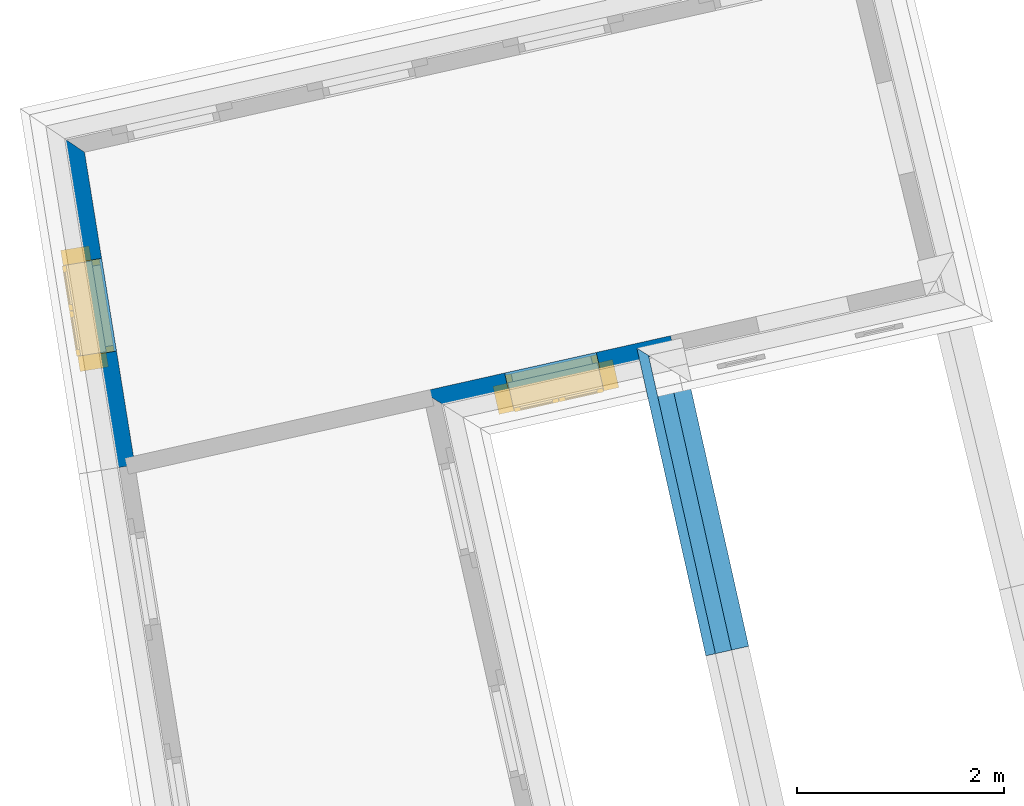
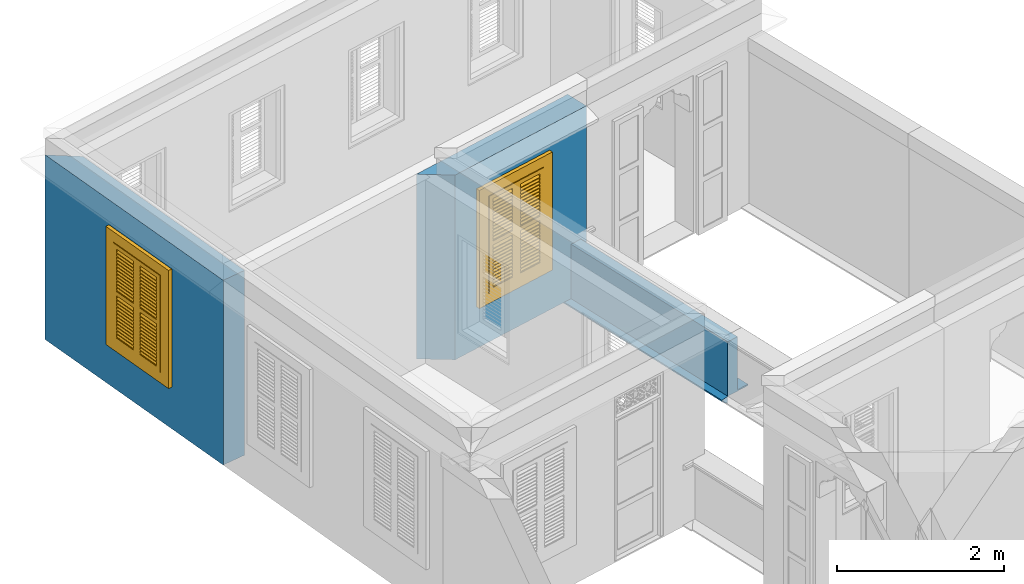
# One storey, part 9 of 15: 4 walls, 2 windows, 2 openings.
"""IFC4 building model written with IfcOpenShell, lengths in metres."""

from ifc_helpers import new_model, si_unit, frame, origin, origin_with_axes, place, context, subcontext, project, spatial, polyline, outline, extrude, clip, halfspace, faceted_brep, source, transform, mapped, material, layer, layer_set, layer_usage, material_profile, profile_set, profile_usage, type_object, type_shapes, element, fill, save


model = new_model("IFC4")

# Units and contexts
model_context = context("Model", 3, world=origin_with_axes())
body_context = subcontext(model_context, "Body", "Model", "MODEL_VIEW")
ifc_project = project(units=[si_unit("PLANEANGLEUNIT", "RADIAN"), si_unit("MASSUNIT", "GRAM", prefix="KILO"), si_unit("FORCEUNIT", "NEWTON", prefix="KILO"), si_unit("LENGTHUNIT", "METRE"), si_unit("AREAUNIT", "SQUARE_METRE"), si_unit("VOLUMEUNIT", "CUBIC_METRE")], contexts=[model_context, model_context])

# Site, building, storey
site_placement = place(None, origin_with_axes())
site = spatial("IfcSite", under=ifc_project, at=site_placement, Name="Site plot-10", CompositionType="ELEMENT")
building_placement = place(None, origin_with_axes())
building = spatial("IfcBuilding", under=site, at=building_placement, Name="Building plot-10", CompositionType="ELEMENT")
storey_placement = place(None, frame((0.0, 0.0, 2.7), z_axis=(0.0, 0.0, 1.0), x_axis=(1.0, 0.0, 0.0)))
storey = spatial("IfcBuildingStorey", under=building, at=storey_placement, Name="plot-10 1", CompositionType="ELEMENT", Elevation=2.7)

# Wall, opening, window
ifc_material = material(Name="Masonry")
ifc_layer = layer(ifc_material, 0.33, ventilated=False)
ifc_layer_set = layer_set([ifc_layer], Name="exterior_0.08_0.25")
ifc_layer_usage = layer_usage(ifc_layer_set, "AXIS2", "POSITIVE", -0.25)
wall_type_1 = type_object("IfcWallType", Name="exterior_0.08_0.25", PredefinedType="SOLIDWALL", material=ifc_layer_set)
wall_1_placement = place(storey_placement, frame((-25.0032951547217, 19.6175288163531, 0.0), z_axis=(0.0, 0.0, 1.0), x_axis=(0.158841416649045, -0.987304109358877, 0.0)))
wall_1 = element("IfcWall", 1, at=wall_1_placement, inside=storey, type_object=wall_type_1, material=ifc_layer_usage, Name="exterior", context=body_context, shape_type="SweptSolid", body=[
    extrude(outline(polyline([(0.0752482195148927, 0.0800000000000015), (-0.235150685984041, -0.250000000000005), (3.14293236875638, -0.249999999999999), (3.14293236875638, 0.0799999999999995), (0.0752482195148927, 0.0800000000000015)])), origin_with_axes(), (0.0, 0.0, 1.0), 2.7),
])
opening_1_placement = place(wall_1_placement, frame((1.11646618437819, 0.0, 0.75)))
opening_1 = element("IfcOpeningElement", 2, at=opening_1_placement, cuts=wall_1, Name="My Opening", ObjectType="Opening", context=body_context, shape_type="SweptSolid", body=[
    extrude(outline(polyline([(0.0, -0.270000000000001), (0.910000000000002, -0.270000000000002), (0.909999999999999, 1.1), (-1.99840144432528e-15, 1.1), (0.0, -0.270000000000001)])), origin_with_axes(), (0.0, 0.0, 1.0), 1.445),
])
window_type = type_object("IfcWindowType", Name="shuttered_shorter", PartitioningType="DOUBLE_PANEL_HORIZONTAL", PredefinedType="NOTDEFINED")
shared_shape = source(origin(), body_context, "Body", "Brep", [
    faceted_brep([(0.393, 0.0, 0.622), (0.074, 0.0, 0.622), (0.074, 0.0, 0.632), (0.393, 0.0, 0.632), (0.074, -0.04, 0.592), (0.393, -0.04, 0.592), (0.393, -0.04, 0.582), (0.074, -0.04, 0.582), (0.517, 0.0, 0.682), (0.836, 0.0, 0.682), (0.836, 0.0, 0.672), (0.517, 0.0, 0.672), (0.517, -0.04, 0.642), (0.836, -0.04, 0.642), (0.836, -0.04, 0.632), (0.517, -0.04, 0.632), (0.517, 0.0, 0.632), (0.836, 0.0, 0.632), (0.836, 0.0, 0.622), (0.517, 0.0, 0.622), (0.517, -0.04, 0.592), (0.836, -0.04, 0.592), (0.836, -0.04, 0.582), (0.517, -0.04, 0.582), (0.517, 0.0, 0.232), (0.836, 0.0, 0.232), (0.836, 0.0, 0.222), (0.517, 0.0, 0.222), (0.517, -0.04, 0.192), (0.836, -0.04, 0.192), (0.836, -0.04, 0.182), (0.517, -0.04, 0.182), (0.517, 0.0, 0.532), (0.836, 0.0, 0.532), (0.836, 0.0, 0.522), (0.517, 0.0, 0.522), (0.517, -0.04, 0.492), (0.836, -0.04, 0.492), (0.836, -0.04, 0.482), (0.517, -0.04, 0.482), (0.517, 0.0, 0.482), (0.836, 0.0, 0.482), (0.836, 0.0, 0.472), (0.517, 0.0, 0.472), (0.517, -0.04, 0.442), (0.836, -0.04, 0.442), (0.836, -0.04, 0.432), (0.517, -0.04, 0.432), (0.517, 0.0, 0.582), (0.836, 0.0, 0.582), (0.836, 0.0, 0.572), (0.517, 0.0, 0.572), (0.517, -0.04, 0.542), (0.836, -0.04, 0.542), (0.836, -0.04, 0.532), (0.517, -0.04, 0.532), (0.517, 0.0, 0.182), (0.836, 0.0, 0.182), (0.836, 0.0, 0.172), (0.517, 0.0, 0.172), (0.517, -0.04, 0.142), (0.836, -0.04, 0.142), (0.836, -0.04, 0.132), (0.517, -0.04, 0.132), (0.517, 0.0, 0.382), (0.836, 0.0, 0.382), (0.836, 0.0, 0.372), (0.517, 0.0, 0.372), (0.517, -0.04, 0.342), (0.836, -0.04, 0.342), (0.836, -0.04, 0.332), (0.517, -0.04, 0.332), (0.517, 0.0, 0.432), (0.836, 0.0, 0.432), (0.836, 0.0, 0.422), (0.517, 0.0, 0.422), (0.517, -0.04, 0.392), (0.836, -0.04, 0.392), (0.836, -0.04, 0.382), (0.517, -0.04, 0.382), (0.517, 0.0, 0.132), (0.836, 0.0, 0.132), (0.836, 0.0, 0.122), (0.517, 0.0, 0.122), (0.517, -0.04, 0.092), (0.836, -0.04, 0.092), (0.836, -0.04, 0.082), (0.517, -0.04, 0.082), (0.517, 0.0, 0.282), (0.836, 0.0, 0.282), (0.836, 0.0, 0.272), (0.517, 0.0, 0.272), (0.517, -0.04, 0.242), (0.836, -0.04, 0.242), (0.836, -0.04, 0.232), (0.517, -0.04, 0.232), (0.517, 0.0, 0.332), (0.836, 0.0, 0.332), (0.836, 0.0, 0.322), (0.517, 0.0, 0.322), (0.517, -0.04, 0.292), (0.836, -0.04, 0.292), (0.836, -0.04, 0.282), (0.517, -0.04, 0.282), (0.517, 0.0, 1.362667), (0.836, 0.0, 1.362667), (0.836, 0.0, 1.352667), (0.517, 0.0, 1.352667), (0.517, -0.04, 1.322667), (0.836, -0.04, 1.322667), (0.836, -0.04, 1.312667), (0.517, -0.04, 1.312667), (0.517, 0.0, 1.312667), (0.836, 0.0, 1.312667), (0.836, 0.0, 1.302667), (0.517, 0.0, 1.302667), (0.517, -0.04, 1.272667), (0.836, -0.04, 1.272667), (0.836, -0.04, 1.262667), (0.517, -0.04, 1.262667), (0.517, 0.0, 0.912667), (0.836, 0.0, 0.912667), (0.836, 0.0, 0.902667), (0.517, 0.0, 0.902667), (0.517, -0.04, 0.872667), (0.836, -0.04, 0.872667), (0.836, -0.04, 0.862667), (0.517, -0.04, 0.862667), (0.517, 0.0, 1.212667), (0.836, 0.0, 1.212667), (0.836, 0.0, 1.202667), (0.517, 0.0, 1.202667), (0.517, -0.04, 1.172667), (0.836, -0.04, 1.172667), (0.836, -0.04, 1.162667), (0.517, -0.04, 1.162667), (0.517, 0.0, 1.162667), (0.836, 0.0, 1.162667), (0.836, 0.0, 1.152667), (0.517, 0.0, 1.152667), (0.517, -0.04, 1.122667), (0.836, -0.04, 1.122667), (0.836, -0.04, 1.112667), (0.517, -0.04, 1.112667), (0.517, 0.0, 1.262667), (0.836, 0.0, 1.262667), (0.836, 0.0, 1.252667), (0.517, 0.0, 1.252667), (0.517, -0.04, 1.222667), (0.836, -0.04, 1.222667), (0.836, -0.04, 1.212667), (0.517, -0.04, 1.212667), (0.517, 0.0, 0.862667), (0.836, 0.0, 0.862667), (0.836, 0.0, 0.852667), (0.517, 0.0, 0.852667), (0.517, -0.04, 0.822667), (0.836, -0.04, 0.822667), (0.836, -0.04, 0.812667), (0.517, -0.04, 0.812667), (0.517, 0.0, 1.062667), (0.836, 0.0, 1.062667), (0.836, 0.0, 1.052667), (0.517, 0.0, 1.052667), (0.517, -0.04, 1.022667), (0.836, -0.04, 1.022667), (0.836, -0.04, 1.012667), (0.517, -0.04, 1.012667), (0.517, 0.0, 1.112667), (0.836, 0.0, 1.112667), (0.836, 0.0, 1.102667), (0.517, 0.0, 1.102667), (0.517, -0.04, 1.072667), (0.836, -0.04, 1.072667), (0.836, -0.04, 1.062667), (0.517, -0.04, 1.062667), (0.517, 0.0, 0.812667), (0.836, 0.0, 0.812667), (0.836, 0.0, 0.802667), (0.517, 0.0, 0.802667), (0.517, -0.04, 0.772667), (0.836, -0.04, 0.772667), (0.836, -0.04, 0.762667), (0.517, -0.04, 0.762667), (0.517, 0.0, 0.962667), (0.836, 0.0, 0.962667), (0.836, 0.0, 0.952667), (0.517, 0.0, 0.952667), (0.517, -0.04, 0.922667), (0.836, -0.04, 0.922667), (0.836, -0.04, 0.912667), (0.517, -0.04, 0.912667), (0.517, 0.0, 1.012667), (0.836, 0.0, 1.012667), (0.836, 0.0, 1.002667), (0.517, 0.0, 1.002667), (0.517, -0.04, 0.972667), (0.836, -0.04, 0.972667), (0.836, -0.04, 0.962667), (0.517, -0.04, 0.962667), (0.074, 0.0, 0.682), (0.393, 0.0, 0.682), (0.393, 0.0, 0.672), (0.074, 0.0, 0.672), (0.074, -0.04, 0.642), (0.393, -0.04, 0.642), (0.393, -0.04, 0.632), (0.074, -0.04, 0.632), (0.074, 0.0, 0.232), (0.393, 0.0, 0.232), (0.393, 0.0, 0.222), (0.074, 0.0, 0.222), (0.074, -0.04, 0.192), (0.393, -0.04, 0.192), (0.393, -0.04, 0.182), (0.074, -0.04, 0.182), (0.074, 0.0, 0.532), (0.393, 0.0, 0.532), (0.393, 0.0, 0.522), (0.074, 0.0, 0.522), (0.074, -0.04, 0.492), (0.393, -0.04, 0.492), (0.393, -0.04, 0.482), (0.074, -0.04, 0.482), (0.074, 0.0, 0.482), (0.393, 0.0, 0.482), (0.393, 0.0, 0.472), (0.074, 0.0, 0.472), (0.074, -0.04, 0.442), (0.393, -0.04, 0.442), (0.393, -0.04, 0.432), (0.074, -0.04, 0.432), (0.074, 0.0, 0.582), (0.393, 0.0, 0.582), (0.393, 0.0, 0.572), (0.074, 0.0, 0.572), (0.074, -0.04, 0.542), (0.393, -0.04, 0.542), (0.393, -0.04, 0.532), (0.074, -0.04, 0.532), (0.074, 0.0, 0.182), (0.393, 0.0, 0.182), (0.393, 0.0, 0.172), (0.074, 0.0, 0.172), (0.074, -0.04, 0.142), (0.393, -0.04, 0.142), (0.393, -0.04, 0.132), (0.074, -0.04, 0.132), (0.074, 0.0, 0.382), (0.393, 0.0, 0.382), (0.393, 0.0, 0.372), (0.074, 0.0, 0.372), (0.074, -0.04, 0.342), (0.393, -0.04, 0.342), (0.393, -0.04, 0.332), (0.074, -0.04, 0.332), (0.074, 0.0, 0.432), (0.393, 0.0, 0.432), (0.393, 0.0, 0.422), (0.074, 0.0, 0.422), (0.074, -0.04, 0.392), (0.393, -0.04, 0.392), (0.393, -0.04, 0.382), (0.074, -0.04, 0.382), (0.074, 0.0, 0.132), (0.393, 0.0, 0.132), (0.393, 0.0, 0.122), (0.074, 0.0, 0.122), (0.074, -0.04, 0.092), (0.393, -0.04, 0.092), (0.393, -0.04, 0.082), (0.074, -0.04, 0.082), (0.074, 0.0, 0.282), (0.393, 0.0, 0.282), (0.393, 0.0, 0.272), (0.074, 0.0, 0.272), (0.074, -0.04, 0.242), (0.393, -0.04, 0.242), (0.393, -0.04, 0.232), (0.074, -0.04, 0.232), (0.074, 0.0, 0.332), (0.393, 0.0, 0.332), (0.393, 0.0, 0.322), (0.074, 0.0, 0.322), (0.074, -0.04, 0.292), (0.393, -0.04, 0.292), (0.393, -0.04, 0.282), (0.074, -0.04, 0.282), (0.074, 0.0, 1.362667), (0.393, 0.0, 1.362667), (0.393, 0.0, 1.352667), (0.074, 0.0, 1.352667), (0.074, -0.04, 1.322667), (0.393, -0.04, 1.322667), (0.393, -0.04, 1.312667), (0.074, -0.04, 1.312667), (0.074, 0.0, 1.312667), (0.393, 0.0, 1.312667), (0.393, 0.0, 1.302667), (0.074, 0.0, 1.302667), (0.074, -0.04, 1.272667), (0.393, -0.04, 1.272667), (0.393, -0.04, 1.262667), (0.074, -0.04, 1.262667), (0.074, 0.0, 0.912667), (0.393, 0.0, 0.912667), (0.393, 0.0, 0.902667), (0.074, 0.0, 0.902667), (0.074, -0.04, 0.872667), (0.393, -0.04, 0.872667), (0.393, -0.04, 0.862667), (0.074, -0.04, 0.862667), (0.074, 0.0, 1.212667), (0.393, 0.0, 1.212667), (0.393, 0.0, 1.202667), (0.074, 0.0, 1.202667), (0.074, -0.04, 1.172667), (0.393, -0.04, 1.172667), (0.393, -0.04, 1.162667), (0.074, -0.04, 1.162667), (0.074, 0.0, 1.162667), (0.393, 0.0, 1.162667), (0.393, 0.0, 1.152667), (0.074, 0.0, 1.152667), (0.074, -0.04, 1.122667), (0.393, -0.04, 1.122667), (0.393, -0.04, 1.112667), (0.074, -0.04, 1.112667), (0.074, 0.0, 1.262667), (0.393, 0.0, 1.262667), (0.393, 0.0, 1.252667), (0.074, 0.0, 1.252667), (0.074, -0.04, 1.222667), (0.393, -0.04, 1.222667), (0.393, -0.04, 1.212667), (0.074, -0.04, 1.212667), (0.074, 0.0, 0.862667), (0.393, 0.0, 0.862667), (0.393, 0.0, 0.852667), (0.074, 0.0, 0.852667), (0.074, -0.04, 0.822667), (0.393, -0.04, 0.822667), (0.393, -0.04, 0.812667), (0.074, -0.04, 0.812667), (0.074, 0.0, 1.062667), (0.393, 0.0, 1.062667), (0.393, 0.0, 1.052667), (0.074, 0.0, 1.052667), (0.074, -0.04, 1.022667), (0.393, -0.04, 1.022667), (0.393, -0.04, 1.012667), (0.074, -0.04, 1.012667), (0.074, 0.0, 1.112667), (0.393, 0.0, 1.112667), (0.393, 0.0, 1.102667), (0.074, 0.0, 1.102667), (0.074, -0.04, 1.072667), (0.393, -0.04, 1.072667), (0.393, -0.04, 1.062667), (0.074, -0.04, 1.062667), (0.074, 0.0, 0.812667), (0.393, 0.0, 0.812667), (0.393, 0.0, 0.802667), (0.074, 0.0, 0.802667), (0.074, -0.04, 0.772667), (0.393, -0.04, 0.772667), (0.393, -0.04, 0.762667), (0.074, -0.04, 0.762667), (0.074, 0.0, 0.962667), (0.393, 0.0, 0.962667), (0.393, 0.0, 0.952667), (0.074, 0.0, 0.952667), (0.074, -0.04, 0.922667), (0.393, -0.04, 0.922667), (0.393, -0.04, 0.912667), (0.074, -0.04, 0.912667), (0.074, 0.0, 1.012667), (0.393, 0.0, 1.012667), (0.393, 0.0, 1.002667), (0.074, 0.0, 1.002667), (0.074, -0.04, 0.972667), (0.393, -0.04, 0.972667), (0.393, -0.04, 0.962667), (0.074, -0.04, 0.962667), (0.517, -0.04, 0.072), (0.457, -0.04, 0.012), (0.896, -0.04, 0.012), (0.836, -0.04, 0.072), (0.457, -0.04, 0.692667), (0.517, -0.04, 0.692667), (0.457, 0.0, 0.012), (0.896, 0.0, 0.012), (0.836, -0.04, 0.692667), (0.896, -0.04, 0.692667), (0.836, 0.0, 0.072), (0.517, 0.0, 0.072), (0.457, 0.0, 0.692667), (0.517, 0.0, 0.692667), (0.517, -0.04, 0.752666), (0.457, -0.04, 0.752666), (0.896, 0.0, 0.692667), (0.836, 0.0, 0.692667), (0.836, -0.04, 0.752666), (0.896, -0.04, 0.752666), (0.457, 0.0, 0.752666), (0.457, -0.04, 1.433333), (0.517, -0.04, 1.373333), (0.896, 0.0, 0.752666), (0.836, -0.04, 1.373333), (0.896, -0.04, 1.433333), (0.457, 0.0, 1.433333), (0.517, 0.0, 0.752666), (0.836, 0.0, 0.752666), (0.517, 0.0, 1.373333), (0.896, 0.0, 1.433333), (0.836, 0.0, 1.373333), (0.074, -0.04, 0.072), (0.014, -0.04, 0.012), (0.453, -0.04, 0.012), (0.393, -0.04, 0.072), (0.014, -0.04, 0.692667), (0.074, -0.04, 0.692667), (0.014, 0.0, 0.012), (0.453, 0.0, 0.012), (0.393, -0.04, 0.692667), (0.453, -0.04, 0.692667), (0.393, 0.0, 0.072), (0.074, 0.0, 0.072), (0.014, 0.0, 0.692667), (0.074, 0.0, 0.692667), (0.074, -0.04, 0.752666), (0.014, -0.04, 0.752666), (0.453, 0.0, 0.692667), (0.393, 0.0, 0.692667), (0.393, -0.04, 0.752666), (0.453, -0.04, 0.752666), (0.014, 0.0, 0.752666), (0.014, -0.04, 1.433333), (0.074, -0.04, 1.373333), (0.453, 0.0, 0.752666), (0.393, -0.04, 1.373333), (0.453, -0.04, 1.433333), (0.014, 0.0, 1.433333), (0.074, 0.0, 0.752666), (0.393, 0.0, 0.752666), (0.074, 0.0, 1.373333), (0.453, 0.0, 1.433333), (0.393, 0.0, 1.373333), (0.0, 0.33, 1.445), (0.91, 0.33, 1.445), (0.85, 0.33, 1.385), (0.06, 0.33, 1.385), (0.91, 0.25, 1.445), (0.0, 0.25, 1.445), (0.91, 0.25, 1.445), (0.85, 0.33, 0.06), (0.91, 0.33, 0.0), (0.85, 0.25, 1.385), (0.06, 0.25, 1.385), (0.0, 0.33, 0.0), (0.06, 0.33, 0.06), (0.0, 0.25, 0.0), (0.91, 0.25, 0.0), (0.85, 0.25, 0.06), (0.06, 0.25, 0.06), (1.05, 0.25, 1.585), (-0.14, 0.25, 1.585), (-0.14, -0.03, 1.585), (1.05, -0.03, 1.585), (0.9, -0.03, 1.435), (0.01, -0.03, 1.435), (0.01, 0.25, 1.435), (0.9, 0.25, 1.435), (0.9, 0.25, 0.01), (0.9, -0.03, 0.01), (1.05, -0.03, -0.14), (1.05, 0.25, -0.14), (0.01, -0.03, 0.01), (0.01, 0.25, 0.01), (-0.14, -0.03, -0.14), (-0.14, 0.25, -0.14)], [[[0, 1, 2, 3]], [[4, 5, 3, 2]], [[5, 6, 0, 3]], [[1, 0, 6, 7]], [[2, 1, 7, 4]], [[5, 4, 7, 6]], [[8, 9, 10, 11]], [[12, 13, 9, 8]], [[13, 14, 10, 9]], [[14, 15, 11, 10]], [[15, 12, 8, 11]], [[13, 12, 15, 14]], [[16, 17, 18, 19]], [[20, 21, 17, 16]], [[21, 22, 18, 17]], [[22, 23, 19, 18]], [[23, 20, 16, 19]], [[21, 20, 23, 22]], [[24, 25, 26, 27]], [[28, 29, 25, 24]], [[29, 30, 26, 25]], [[30, 31, 27, 26]], [[31, 28, 24, 27]], [[29, 28, 31, 30]], [[32, 33, 34, 35]], [[36, 37, 33, 32]], [[37, 38, 34, 33]], [[38, 39, 35, 34]], [[39, 36, 32, 35]], [[37, 36, 39, 38]], [[40, 41, 42, 43]], [[44, 45, 41, 40]], [[45, 46, 42, 41]], [[46, 47, 43, 42]], [[47, 44, 40, 43]], [[45, 44, 47, 46]], [[48, 49, 50, 51]], [[52, 53, 49, 48]], [[53, 54, 50, 49]], [[54, 55, 51, 50]], [[55, 52, 48, 51]], [[53, 52, 55, 54]], [[56, 57, 58, 59]], [[60, 61, 57, 56]], [[61, 62, 58, 57]], [[62, 63, 59, 58]], [[63, 60, 56, 59]], [[61, 60, 63, 62]], [[64, 65, 66, 67]], [[68, 69, 65, 64]], [[69, 70, 66, 65]], [[70, 71, 67, 66]], [[71, 68, 64, 67]], [[69, 68, 71, 70]], [[72, 73, 74, 75]], [[76, 77, 73, 72]], [[77, 78, 74, 73]], [[78, 79, 75, 74]], [[79, 76, 72, 75]], [[77, 76, 79, 78]], [[80, 81, 82, 83]], [[84, 85, 81, 80]], [[85, 86, 82, 81]], [[86, 87, 83, 82]], [[87, 84, 80, 83]], [[85, 84, 87, 86]], [[88, 89, 90, 91]], [[92, 93, 89, 88]], [[93, 94, 90, 89]], [[94, 95, 91, 90]], [[95, 92, 88, 91]], [[93, 92, 95, 94]], [[96, 97, 98, 99]], [[100, 101, 97, 96]], [[101, 102, 98, 97]], [[102, 103, 99, 98]], [[103, 100, 96, 99]], [[101, 100, 103, 102]], [[104, 105, 106, 107]], [[108, 109, 105, 104]], [[109, 110, 106, 105]], [[110, 111, 107, 106]], [[111, 108, 104, 107]], [[109, 108, 111, 110]], [[112, 113, 114, 115]], [[116, 117, 113, 112]], [[117, 118, 114, 113]], [[118, 119, 115, 114]], [[119, 116, 112, 115]], [[117, 116, 119, 118]], [[120, 121, 122, 123]], [[124, 125, 121, 120]], [[125, 126, 122, 121]], [[126, 127, 123, 122]], [[127, 124, 120, 123]], [[125, 124, 127, 126]], [[128, 129, 130, 131]], [[132, 133, 129, 128]], [[133, 134, 130, 129]], [[134, 135, 131, 130]], [[135, 132, 128, 131]], [[133, 132, 135, 134]], [[136, 137, 138, 139]], [[140, 141, 137, 136]], [[141, 142, 138, 137]], [[142, 143, 139, 138]], [[139, 143, 140, 136]], [[141, 140, 143, 142]], [[144, 145, 146, 147]], [[148, 149, 145, 144]], [[149, 150, 146, 145]], [[150, 151, 147, 146]], [[151, 148, 144, 147]], [[149, 148, 151, 150]], [[152, 153, 154, 155]], [[156, 157, 153, 152]], [[157, 158, 154, 153]], [[158, 159, 155, 154]], [[159, 156, 152, 155]], [[157, 156, 159, 158]], [[160, 161, 162, 163]], [[164, 165, 161, 160]], [[165, 166, 162, 161]], [[166, 167, 163, 162]], [[167, 164, 160, 163]], [[165, 164, 167, 166]], [[168, 169, 170, 171]], [[172, 173, 169, 168]], [[173, 174, 170, 169]], [[174, 175, 171, 170]], [[175, 172, 168, 171]], [[173, 172, 175, 174]], [[176, 177, 178, 179]], [[180, 181, 177, 176]], [[181, 182, 178, 177]], [[182, 183, 179, 178]], [[183, 180, 176, 179]], [[181, 180, 183, 182]], [[184, 185, 186, 187]], [[188, 189, 185, 184]], [[189, 190, 186, 185]], [[190, 191, 187, 186]], [[191, 188, 184, 187]], [[189, 188, 191, 190]], [[192, 193, 194, 195]], [[196, 197, 193, 192]], [[197, 198, 194, 193]], [[198, 199, 195, 194]], [[199, 196, 192, 195]], [[197, 196, 199, 198]], [[200, 201, 202, 203]], [[204, 205, 201, 200]], [[205, 206, 202, 201]], [[206, 207, 203, 202]], [[207, 204, 200, 203]], [[205, 204, 207, 206]], [[208, 209, 210, 211]], [[212, 213, 209, 208]], [[213, 214, 210, 209]], [[214, 215, 211, 210]], [[215, 212, 208, 211]], [[213, 212, 215, 214]], [[216, 217, 218, 219]], [[220, 221, 217, 216]], [[221, 222, 218, 217]], [[222, 223, 219, 218]], [[223, 220, 216, 219]], [[221, 220, 223, 222]], [[224, 225, 226, 227]], [[228, 229, 225, 224]], [[229, 230, 226, 225]], [[230, 231, 227, 226]], [[231, 228, 224, 227]], [[229, 228, 231, 230]], [[232, 233, 234, 235]], [[236, 237, 233, 232]], [[237, 238, 234, 233]], [[238, 239, 235, 234]], [[239, 236, 232, 235]], [[237, 236, 239, 238]], [[240, 241, 242, 243]], [[244, 245, 241, 240]], [[245, 246, 242, 241]], [[246, 247, 243, 242]], [[247, 244, 240, 243]], [[245, 244, 247, 246]], [[248, 249, 250, 251]], [[252, 253, 249, 248]], [[253, 254, 250, 249]], [[254, 255, 251, 250]], [[255, 252, 248, 251]], [[253, 252, 255, 254]], [[256, 257, 258, 259]], [[260, 261, 257, 256]], [[261, 262, 258, 257]], [[262, 263, 259, 258]], [[263, 260, 256, 259]], [[261, 260, 263, 262]], [[264, 265, 266, 267]], [[268, 269, 265, 264]], [[269, 270, 266, 265]], [[270, 271, 267, 266]], [[271, 268, 264, 267]], [[269, 268, 271, 270]], [[272, 273, 274, 275]], [[276, 277, 273, 272]], [[277, 278, 274, 273]], [[278, 279, 275, 274]], [[279, 276, 272, 275]], [[277, 276, 279, 278]], [[280, 281, 282, 283]], [[284, 285, 281, 280]], [[285, 286, 282, 281]], [[286, 287, 283, 282]], [[287, 284, 280, 283]], [[285, 284, 287, 286]], [[288, 289, 290, 291]], [[292, 293, 289, 288]], [[293, 294, 290, 289]], [[294, 295, 291, 290]], [[295, 292, 288, 291]], [[293, 292, 295, 294]], [[296, 297, 298, 299]], [[300, 301, 297, 296]], [[301, 302, 298, 297]], [[302, 303, 299, 298]], [[303, 300, 296, 299]], [[301, 300, 303, 302]], [[304, 305, 306, 307]], [[308, 309, 305, 304]], [[309, 310, 306, 305]], [[310, 311, 307, 306]], [[311, 308, 304, 307]], [[309, 308, 311, 310]], [[312, 313, 314, 315]], [[316, 317, 313, 312]], [[317, 318, 314, 313]], [[318, 319, 315, 314]], [[319, 316, 312, 315]], [[317, 316, 319, 318]], [[320, 321, 322, 323]], [[324, 325, 321, 320]], [[325, 326, 322, 321]], [[326, 327, 323, 322]], [[327, 324, 320, 323]], [[325, 324, 327, 326]], [[328, 329, 330, 331]], [[332, 333, 329, 328]], [[333, 334, 330, 329]], [[334, 335, 331, 330]], [[335, 332, 328, 331]], [[333, 332, 335, 334]], [[336, 337, 338, 339]], [[340, 341, 337, 336]], [[341, 342, 338, 337]], [[342, 343, 339, 338]], [[343, 340, 336, 339]], [[341, 340, 343, 342]], [[344, 345, 346, 347]], [[348, 349, 345, 344]], [[349, 350, 346, 345]], [[350, 351, 347, 346]], [[351, 348, 344, 347]], [[349, 348, 351, 350]], [[352, 353, 354, 355]], [[356, 357, 353, 352]], [[357, 358, 354, 353]], [[358, 359, 355, 354]], [[359, 356, 352, 355]], [[357, 356, 359, 358]], [[360, 361, 362, 363]], [[364, 365, 361, 360]], [[365, 366, 362, 361]], [[366, 367, 363, 362]], [[367, 364, 360, 363]], [[365, 364, 367, 366]], [[368, 369, 370, 371]], [[372, 373, 369, 368]], [[373, 374, 370, 369]], [[374, 375, 371, 370]], [[375, 372, 368, 371]], [[373, 372, 375, 374]], [[376, 377, 378, 379]], [[380, 381, 377, 376]], [[381, 382, 378, 377]], [[382, 383, 379, 378]], [[383, 380, 376, 379]], [[381, 380, 383, 382]], [[384, 385, 386, 387]], [[388, 385, 384, 389]], [[390, 391, 386, 385]], [[392, 387, 386, 393]], [[384, 387, 394, 395]], [[390, 385, 388, 396]], [[389, 384, 395, 397]], [[389, 398, 399, 388]], [[390, 395, 394, 391]], [[400, 393, 386, 391]], [[387, 392, 401, 394]], [[402, 392, 393, 403]], [[396, 388, 399, 404]], [[390, 396, 397, 395]], [[392, 389, 397, 401]], [[398, 389, 392, 402]], [[405, 399, 398, 406]], [[394, 401, 400, 391]], [[407, 403, 393, 400]], [[408, 402, 403, 409]], [[404, 399, 405, 410]], [[411, 397, 396, 404]], [[397, 411, 412, 401]], [[398, 402, 412, 411]], [[406, 398, 411, 413]], [[405, 406, 408, 409]], [[401, 412, 407, 400]], [[414, 409, 403, 407]], [[402, 408, 415, 412]], [[405, 409, 414, 410]], [[404, 410, 413, 411]], [[408, 406, 413, 415]], [[412, 415, 414, 407]], [[413, 410, 414, 415]], [[416, 417, 418, 419]], [[420, 417, 416, 421]], [[422, 423, 418, 417]], [[424, 419, 418, 425]], [[416, 419, 426, 427]], [[422, 417, 420, 428]], [[421, 416, 427, 429]], [[421, 430, 431, 420]], [[422, 427, 426, 423]], [[432, 425, 418, 423]], [[419, 424, 433, 426]], [[434, 424, 425, 435]], [[428, 420, 431, 436]], [[422, 428, 429, 427]], [[424, 421, 429, 433]], [[430, 421, 424, 434]], [[437, 431, 430, 438]], [[426, 433, 432, 423]], [[439, 435, 425, 432]], [[440, 434, 435, 441]], [[436, 431, 437, 442]], [[443, 429, 428, 436]], [[429, 443, 444, 433]], [[430, 434, 444, 443]], [[438, 430, 443, 445]], [[437, 438, 440, 441]], [[433, 444, 439, 432]], [[446, 441, 435, 439]], [[434, 440, 447, 444]], [[437, 441, 446, 442]], [[436, 442, 445, 443]], [[440, 438, 445, 447]], [[444, 447, 446, 439]], [[445, 442, 446, 447]], [[448, 449, 450, 451]], [[452, 449, 448]], [[448, 453, 454]], [[448, 454, 452]], [[455, 450, 449, 456]], [[451, 450, 457, 458]], [[459, 448, 451, 460]], [[448, 459, 461, 453]], [[454, 453, 458, 457]], [[462, 452, 454]], [[454, 457, 463]], [[454, 463, 462]], [[456, 449, 452, 462]], [[450, 455, 463, 457]], [[456, 459, 460, 455]], [[460, 451, 458, 464]], [[459, 456, 462, 461]], [[464, 458, 453, 461]], [[461, 462, 463, 464]], [[455, 460, 464, 463]], [[465, 466, 467, 468]], [[469, 470, 471, 472]], [[473, 474, 469, 472]], [[465, 468, 475, 476]], [[470, 477, 478, 471]], [[474, 473, 478, 477]], [[474, 477, 479, 475]], [[470, 467, 479, 477]], [[470, 469, 468, 467]], [[474, 475, 468, 469]], [[471, 478, 480, 466]], [[473, 472, 465, 476]], [[473, 476, 480, 478]], [[466, 465, 472, 471]], [[480, 476, 475, 479]], [[480, 479, 467, 466]]]),
])
type_shapes(window_type, [shared_shape])
window_1_placement = place(storey_placement, frame((-25.0925261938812, 18.472349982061, 0.75), z_axis=(0.0, 0.0, 1.0), x_axis=(0.144545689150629, -0.898446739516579, 0.0)))
window_1 = element("IfcWindow", 3, at=window_1_placement, inside=storey, type_object=window_type, Name="living outside window", OverallHeight=1.445, OverallWidth=0.91, context=body_context, shape_type="MappedRepresentation", body=[
    mapped(shared_shape, transform((0.0, 0.0, 0.0), scale=1.0)),
])
fill(opening_1, window_1)

wall_2_placement = place(storey_placement, frame((-21.5459217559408, 17.1782132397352, 0.0), z_axis=(0.0, 0.0, 1.0), x_axis=(0.975741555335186, 0.218925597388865, 0.0)))
wall_2 = element("IfcWall", 4, at=wall_2_placement, inside=storey, type_object=wall_type_1, material=ifc_layer_usage, Name="exterior", context=body_context, shape_type="SweptSolid", body=[
    extrude(outline(polyline([(-0.0799999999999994, 0.0800000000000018), (0.249999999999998, -0.249999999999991), (2.38436903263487, -0.250000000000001), (2.38436903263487, 0.0799999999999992), (-0.0799999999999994, 0.0800000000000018)])), origin_with_axes(), (0.0, 0.0, 1.0), 2.7),
])
opening_2_placement = place(wall_2_placement, frame((0.737184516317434, 0.0, 0.75)))
opening_2 = element("IfcOpeningElement", 5, at=opening_2_placement, cuts=wall_2, Name="My Opening", ObjectType="Opening", context=body_context, shape_type="SweptSolid", body=[
    extrude(outline(polyline([(0.0, -0.270000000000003), (0.909999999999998, -0.27), (0.91, 1.1), (1.55431223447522e-15, 1.1), (0.0, -0.270000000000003)])), origin_with_axes(), (0.0, 0.0, 1.0), 1.445),
])
window_2_placement = place(storey_placement, frame((-20.7675102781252, 17.0761515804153, 0.75), z_axis=(0.0, 0.0, 1.0), x_axis=(0.887924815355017, 0.199222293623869, 0.0)))
window_2 = element("IfcWindow", 6, at=window_2_placement, inside=storey, type_object=window_type, Name="living sahn window", OverallHeight=1.445, OverallWidth=0.91, context=body_context, shape_type="MappedRepresentation", body=[
    mapped(shared_shape, transform((0.0, 0.0, 0.0), scale=1.0)),
])
fill(opening_2, window_2)

# Walls
ifc_material_profile_1 = material_profile(None, outline(polyline([(0.25, 0.0), (0.25, 0.795), (0.09, 0.795), (0.09, 0.02), (-0.08, 0.02), (-0.08, 0.0), (0.25, 0.0)])))
ifc_profile_set_1 = profile_set([ifc_material_profile_1])
ifc_profile_usage_1 = profile_usage(ifc_profile_set_1)
wall_type_2 = type_object("IfcWallType", Name="parapet internal_0", PredefinedType="PARAPET", material=ifc_profile_set_1)
wall_3_placement = place(storey_placement, frame((-18.3393801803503, 13.7780314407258, 0.0), z_axis=(-0.218925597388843, 0.975741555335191, 0.0), x_axis=(-0.975741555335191, -0.218925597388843, 0.0)))
element("IfcWall", 7, at=wall_3_placement, inside=storey, type_object=wall_type_2, material=ifc_profile_usage_1, Name="parapet internal_0", context=body_context, shape_type="Clipping", body=[
    clip(clip(extrude(outline(polyline([(0.25, 0.0), (0.25, 0.795), (0.09, 0.795), (0.09, 0.02), (-0.08, 0.02), (-0.08, 0.0), (0.25, 0.0)])), origin_with_axes(), (0.0, 0.0, 1.0), 4.70969270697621), halfspace(frame((0.0, 0.0, 3.70969270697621), z_axis=(0.707106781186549, 0.0, -0.707106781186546), x_axis=(0.0, 1.0, 0.0)), True)), halfspace(frame((0.0, 0.0, 1.0), z_axis=(-6.12323399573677e-17, 0.0, -1.0), x_axis=(0.0, 1.0, 0.0)), False)),
])
ifc_material_profile_2 = material_profile(None, outline(polyline([(0.25, -0.1), (0.265, -0.1), (0.265, -0.085), (0.278, -0.084), (0.289, -0.081), (0.301, -0.074), (0.309, -0.065), (0.315, -0.055), (0.324, -0.044), (0.334, -0.038), (0.345, -0.035), (0.345, -0.015), (0.25, 0.0), (0.25, -0.1)])))
ifc_profile_set_2 = profile_set([ifc_material_profile_2])
ifc_profile_usage_2 = profile_usage(ifc_profile_set_2)
wall_type_3 = type_object("IfcWallType", Name="parapet internal_2", PredefinedType="PARAPET", material=ifc_profile_set_2)
wall_4_placement = place(storey_placement, frame((-18.3393801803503, 13.7780314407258, 0.0), z_axis=(-0.218925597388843, 0.975741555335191, 0.0), x_axis=(-0.975741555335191, -0.218925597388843, 0.0)))
element("IfcWall", 8, at=wall_4_placement, inside=storey, type_object=wall_type_3, material=ifc_profile_usage_2, Name="parapet internal_2", context=body_context, shape_type="Clipping", body=[
    clip(clip(extrude(outline(polyline([(0.25, -0.1), (0.265, -0.1), (0.265, -0.085), (0.278, -0.084), (0.289, -0.081), (0.301, -0.074), (0.309, -0.065), (0.315, -0.055), (0.324, -0.044), (0.334, -0.038), (0.345, -0.035), (0.345, -0.015), (0.25, 0.0), (0.25, -0.1)])), origin_with_axes(), (0.0, 0.0, 1.0), 4.70969270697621), halfspace(frame((0.0, 0.0, 3.70969270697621), z_axis=(0.707106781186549, 0.0, -0.707106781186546), x_axis=(0.0, 1.0, 0.0)), True)), halfspace(frame((0.0, 0.0, 1.0), z_axis=(-6.12323399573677e-17, 0.0, -1.0), x_axis=(0.0, 1.0, 0.0)), False)),
])

save(model, "model.ifc")
